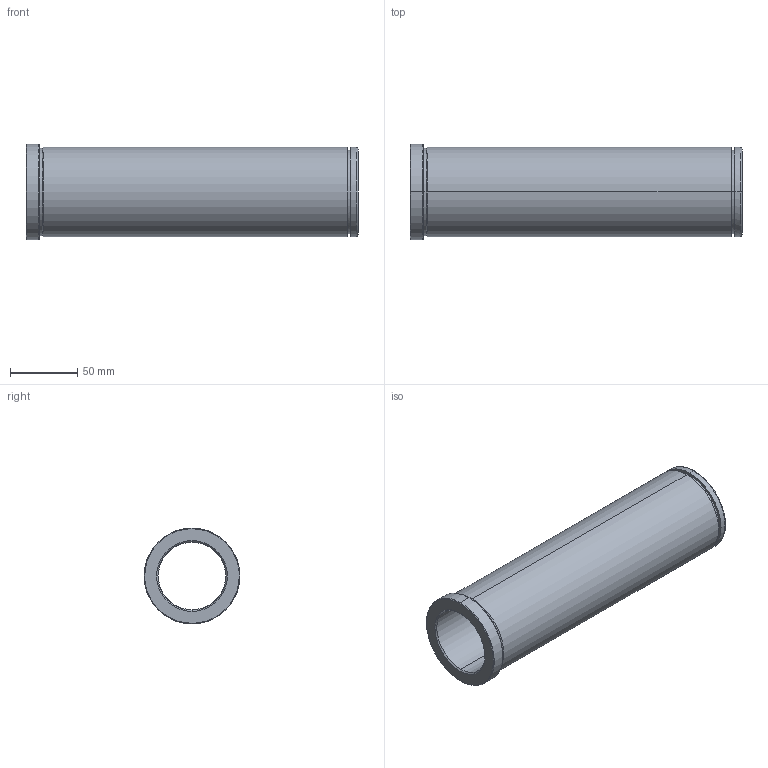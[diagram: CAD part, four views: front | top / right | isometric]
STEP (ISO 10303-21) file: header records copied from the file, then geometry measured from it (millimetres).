
FILE_DESCRIPTION(('CATIA V5 STEP Exchange'),'2;1');
FILE_NAME('C:\Users\Utente\Desktop\IO LAVORO\3D X SITO CF\X SITO\PLASTICA\553\553-50X246.stp','2021-06-08T18:11:09+00:00',('none'),('none'),'CATIA Version 5 Release 20 GA (IN-10)','CATIA V5 STEP AP203','none');
FILE_SCHEMA(('CONFIG_CONTROL_DESIGN'));
Length unit declared in the file: millimetre
Products named in the file (1): 553-50X246
Bounding box: 246 x 71 x 71 mm (x, y, z)
Volume: 357112.6 mm3; surface area: 94398.8 mm2
Topology: 1 solids, 1 shells, 32 faces, 102 edges, 76 vertices
Faces by surface type: cylinder 14, cone 8, plane 6, torus 4
Entity records: 1340 total; most frequent: CARTESIAN_POINT 395, ORIENTED_EDGE 204, DIRECTION 152, EDGE_CURVE 102, AXIS2_PLACEMENT_3D 99, VERTEX_POINT 76, CIRCLE 66, EDGE_LOOP 38
